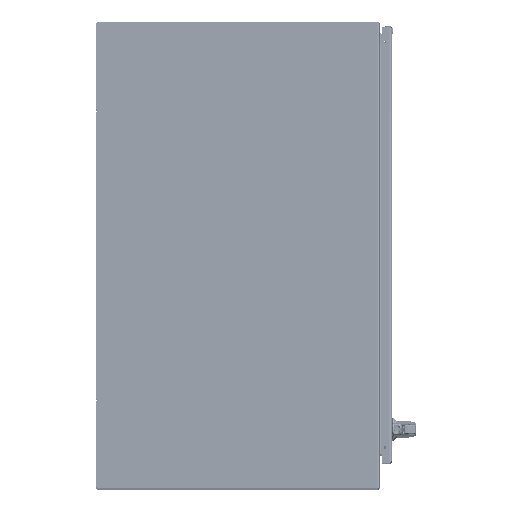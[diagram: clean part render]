
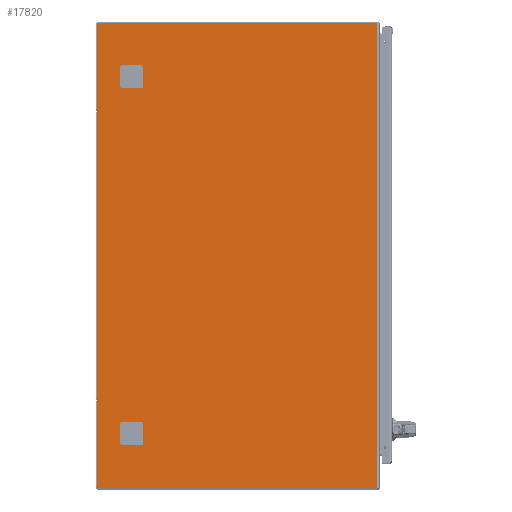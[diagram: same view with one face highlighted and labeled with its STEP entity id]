
A CAD part, top view. The second image highlights one B-rep face of the part: STEP entity #17820.
In plain terms, the highlighted planar face has unit normal (0, 0, 1) as drawn and (0, 1, 0) by its records, which use the part's own axes.
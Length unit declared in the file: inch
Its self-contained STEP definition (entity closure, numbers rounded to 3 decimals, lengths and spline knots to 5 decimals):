
#16583=CARTESIAN_POINT('',(-23.888,0.,-19.638));
#16584=DIRECTION('',(0.,1.,0.));
#16585=DIRECTION('',(0.,0.,-1.));
#16586=AXIS2_PLACEMENT_3D('',#16583,#16584,#16585);
#16591=CARTESIAN_POINT('',(-23.888,0.,19.638));
#16592=DIRECTION('',(0.,1.,0.));
#16593=DIRECTION('',(-1.,0.,0.));
#16594=AXIS2_PLACEMENT_3D('',#16591,#16592,#16593);
#16599=DIRECTION('',(0.,0.,1.));
#16600=VECTOR('',#16599,1.5);
#16601=CARTESIAN_POINT('',(-20.,0.,-15.875));
#16602=LINE('',#16601,#16600);
#16606=CARTESIAN_POINT('',(-20.25,0.,-15.875));
#16607=DIRECTION('',(0.,1.,0.));
#16608=DIRECTION('',(1.,0.,0.));
#16609=AXIS2_PLACEMENT_3D('',#16606,#16607,#16608);
#16614=DIRECTION('',(1.,0.,0.));
#16615=VECTOR('',#16614,1.5);
#16616=CARTESIAN_POINT('',(-21.75,0.,-16.125));
#16617=LINE('',#16616,#16615);
#16621=CARTESIAN_POINT('',(-21.75,0.,-15.875));
#16622=DIRECTION('',(0.,1.,0.));
#16623=DIRECTION('',(0.,0.,-1.));
#16624=AXIS2_PLACEMENT_3D('',#16621,#16622,#16623);
#16629=DIRECTION('',(0.,0.,-1.));
#16630=VECTOR('',#16629,1.5);
#16631=CARTESIAN_POINT('',(-22.,0.,-14.375));
#16632=LINE('',#16631,#16630);
#16636=CARTESIAN_POINT('',(-21.75,0.,-14.375));
#16637=DIRECTION('',(0.,1.,0.));
#16638=DIRECTION('',(-1.,0.,0.));
#16639=AXIS2_PLACEMENT_3D('',#16636,#16637,#16638);
#16644=DIRECTION('',(-1.,0.,0.));
#16645=VECTOR('',#16644,1.5);
#16646=CARTESIAN_POINT('',(-20.25,0.,-14.125));
#16647=LINE('',#16646,#16645);
#16651=CARTESIAN_POINT('',(-20.25,0.,-14.375));
#16652=DIRECTION('',(0.,1.,0.));
#16653=DIRECTION('',(0.,0.,1.));
#16654=AXIS2_PLACEMENT_3D('',#16651,#16652,#16653);
#16659=DIRECTION('',(0.,0.,1.));
#16660=VECTOR('',#16659,1.5);
#16661=CARTESIAN_POINT('',(-20.,0.,14.375));
#16662=LINE('',#16661,#16660);
#16666=CARTESIAN_POINT('',(-20.25,0.,14.375));
#16667=DIRECTION('',(0.,1.,0.));
#16668=DIRECTION('',(1.,0.,0.));
#16669=AXIS2_PLACEMENT_3D('',#16666,#16667,#16668);
#16674=DIRECTION('',(1.,0.,0.));
#16675=VECTOR('',#16674,1.5);
#16676=CARTESIAN_POINT('',(-21.75,0.,14.125));
#16677=LINE('',#16676,#16675);
#16681=CARTESIAN_POINT('',(-21.75,0.,14.375));
#16682=DIRECTION('',(0.,1.,0.));
#16683=DIRECTION('',(0.,0.,-1.));
#16684=AXIS2_PLACEMENT_3D('',#16681,#16682,#16683);
#16689=DIRECTION('',(0.,0.,-1.));
#16690=VECTOR('',#16689,1.5);
#16691=CARTESIAN_POINT('',(-22.,0.,15.875));
#16692=LINE('',#16691,#16690);
#16696=CARTESIAN_POINT('',(-21.75,0.,15.875));
#16697=DIRECTION('',(0.,1.,0.));
#16698=DIRECTION('',(-1.,0.,0.));
#16699=AXIS2_PLACEMENT_3D('',#16696,#16697,#16698);
#16704=DIRECTION('',(-1.,0.,0.));
#16705=VECTOR('',#16704,1.5);
#16706=CARTESIAN_POINT('',(-20.25,0.,16.125));
#16707=LINE('',#16706,#16705);
#16711=CARTESIAN_POINT('',(-20.25,0.,15.875));
#16712=DIRECTION('',(0.,1.,0.));
#16713=DIRECTION('',(0.,0.,1.));
#16714=AXIS2_PLACEMENT_3D('',#16711,#16712,#16713);
#16726=DIRECTION('',(0.,0.,-1.));
#16727=VECTOR('',#16726,39.276);
#16728=CARTESIAN_POINT('',(-23.948,0.,19.638));
#16729=LINE('',#16728,#16727);
#16754=DIRECTION('',(-1.,0.,0.));
#16755=VECTOR('',#16754,23.699);
#16756=CARTESIAN_POINT('',(-0.189,0.,19.698));
#16757=LINE('',#16756,#16755);
#16797=DIRECTION('',(0.,0.,1.));
#16798=VECTOR('',#16797,39.396);
#16799=CARTESIAN_POINT('',(-0.189,0.,-19.698));
#16800=LINE('',#16799,#16798);
#16905=DIRECTION('',(-1.,0.,0.));
#16906=VECTOR('',#16905,23.699);
#16907=CARTESIAN_POINT('',(-0.189,0.,-19.698));
#16908=LINE('',#16907,#16906);
#17605=CARTESIAN_POINT('',(-0.189,0.,19.698));
#17606=VERTEX_POINT('',#17605);
#17607=CARTESIAN_POINT('',(-0.189,0.,-19.698));
#17608=VERTEX_POINT('',#17607);
#17633=CARTESIAN_POINT('',(-23.888,0.,-19.698));
#17634=CARTESIAN_POINT('',(-23.948,0.,-19.638));
#17635=VERTEX_POINT('',#17633);
#17636=VERTEX_POINT('',#17634);
#17641=CARTESIAN_POINT('',(-23.948,0.,19.638));
#17642=CARTESIAN_POINT('',(-23.888,0.,19.698));
#17643=VERTEX_POINT('',#17641);
#17644=VERTEX_POINT('',#17642);
#17649=CARTESIAN_POINT('',(-20.,0.,-15.875));
#17650=CARTESIAN_POINT('',(-20.,0.,-14.375));
#17651=VERTEX_POINT('',#17649);
#17652=VERTEX_POINT('',#17650);
#17653=CARTESIAN_POINT('',(-20.25,0.,-14.125));
#17654=VERTEX_POINT('',#17653);
#17655=CARTESIAN_POINT('',(-21.75,0.,-14.125));
#17656=VERTEX_POINT('',#17655);
#17657=CARTESIAN_POINT('',(-22.,0.,-14.375));
#17658=VERTEX_POINT('',#17657);
#17659=CARTESIAN_POINT('',(-22.,0.,-15.875));
#17660=VERTEX_POINT('',#17659);
#17661=CARTESIAN_POINT('',(-21.75,0.,-16.125));
#17662=VERTEX_POINT('',#17661);
#17663=CARTESIAN_POINT('',(-20.25,0.,-16.125));
#17664=VERTEX_POINT('',#17663);
#17665=CARTESIAN_POINT('',(-20.,0.,14.375));
#17666=CARTESIAN_POINT('',(-20.,0.,15.875));
#17667=VERTEX_POINT('',#17665);
#17668=VERTEX_POINT('',#17666);
#17669=CARTESIAN_POINT('',(-20.25,0.,16.125));
#17670=VERTEX_POINT('',#17669);
#17671=CARTESIAN_POINT('',(-21.75,0.,16.125));
#17672=VERTEX_POINT('',#17671);
#17673=CARTESIAN_POINT('',(-22.,0.,15.875));
#17674=VERTEX_POINT('',#17673);
#17675=CARTESIAN_POINT('',(-22.,0.,14.375));
#17676=VERTEX_POINT('',#17675);
#17677=CARTESIAN_POINT('',(-21.75,0.,14.125));
#17678=VERTEX_POINT('',#17677);
#17679=CARTESIAN_POINT('',(-20.25,0.,14.125));
#17680=VERTEX_POINT('',#17679);
#17765=CARTESIAN_POINT('',(0.,0.,19.698));
#17766=DIRECTION('',(0.,1.,0.));
#17767=DIRECTION('',(-1.,0.,0.));
#17768=AXIS2_PLACEMENT_3D('',#17765,#17766,#17767);
#17769=PLANE('',#17768);
#17771=ORIENTED_EDGE('',*,*,#17770,.F.);
#17773=ORIENTED_EDGE('',*,*,#17772,.F.);
#17775=ORIENTED_EDGE('',*,*,#17774,.T.);
#17777=ORIENTED_EDGE('',*,*,#17776,.T.);
#17779=ORIENTED_EDGE('',*,*,#17778,.F.);
#17781=ORIENTED_EDGE('',*,*,#17780,.T.);
#17782=EDGE_LOOP('',(#17771,#17773,#17775,#17777,#17779,#17781));
#17783=FACE_OUTER_BOUND('',#17782,.F.);
#17785=ORIENTED_EDGE('',*,*,#17784,.F.);
#17787=ORIENTED_EDGE('',*,*,#17786,.T.);
#17789=ORIENTED_EDGE('',*,*,#17788,.F.);
#17791=ORIENTED_EDGE('',*,*,#17790,.T.);
#17793=ORIENTED_EDGE('',*,*,#17792,.F.);
#17795=ORIENTED_EDGE('',*,*,#17794,.T.);
#17797=ORIENTED_EDGE('',*,*,#17796,.F.);
#17799=ORIENTED_EDGE('',*,*,#17798,.T.);
#17800=EDGE_LOOP('',(#17785,#17787,#17789,#17791,#17793,#17795,#17797,#17799));
#17801=FACE_BOUND('',#17800,.F.);
#17803=ORIENTED_EDGE('',*,*,#17802,.F.);
#17805=ORIENTED_EDGE('',*,*,#17804,.T.);
#17807=ORIENTED_EDGE('',*,*,#17806,.F.);
#17809=ORIENTED_EDGE('',*,*,#17808,.T.);
#17811=ORIENTED_EDGE('',*,*,#17810,.F.);
#17813=ORIENTED_EDGE('',*,*,#17812,.T.);
#17815=ORIENTED_EDGE('',*,*,#17814,.F.);
#17817=ORIENTED_EDGE('',*,*,#17816,.T.);
#17818=EDGE_LOOP('',(#17803,#17805,#17807,#17809,#17811,#17813,#17815,#17817));
#17819=FACE_BOUND('',#17818,.F.);
#16587=CIRCLE('',#16586,0.06);
#16595=CIRCLE('',#16594,0.06);
#16610=CIRCLE('',#16609,0.25);
#16625=CIRCLE('',#16624,0.25);
#16640=CIRCLE('',#16639,0.25);
#16655=CIRCLE('',#16654,0.25);
#16670=CIRCLE('',#16669,0.25);
#16685=CIRCLE('',#16684,0.25);
#16700=CIRCLE('',#16699,0.25);
#16715=CIRCLE('',#16714,0.25);
#17770=EDGE_CURVE('',#17635,#17636,#16587,.T.);
#17772=EDGE_CURVE('',#17608,#17635,#16908,.T.);
#17774=EDGE_CURVE('',#17608,#17606,#16800,.T.);
#17776=EDGE_CURVE('',#17606,#17644,#16757,.T.);
#17778=EDGE_CURVE('',#17643,#17644,#16595,.T.);
#17780=EDGE_CURVE('',#17643,#17636,#16729,.T.);
#17784=EDGE_CURVE('',#17651,#17652,#16602,.T.);
#17786=EDGE_CURVE('',#17651,#17664,#16610,.T.);
#17788=EDGE_CURVE('',#17662,#17664,#16617,.T.);
#17790=EDGE_CURVE('',#17662,#17660,#16625,.T.);
#17792=EDGE_CURVE('',#17658,#17660,#16632,.T.);
#17794=EDGE_CURVE('',#17658,#17656,#16640,.T.);
#17796=EDGE_CURVE('',#17654,#17656,#16647,.T.);
#17798=EDGE_CURVE('',#17654,#17652,#16655,.T.);
#17802=EDGE_CURVE('',#17667,#17668,#16662,.T.);
#17804=EDGE_CURVE('',#17667,#17680,#16670,.T.);
#17806=EDGE_CURVE('',#17678,#17680,#16677,.T.);
#17808=EDGE_CURVE('',#17678,#17676,#16685,.T.);
#17810=EDGE_CURVE('',#17674,#17676,#16692,.T.);
#17812=EDGE_CURVE('',#17674,#17672,#16700,.T.);
#17814=EDGE_CURVE('',#17670,#17672,#16707,.T.);
#17816=EDGE_CURVE('',#17670,#17668,#16715,.T.);
#17820=ADVANCED_FACE('',(#17783,#17801,#17819),#17769,.T.);
